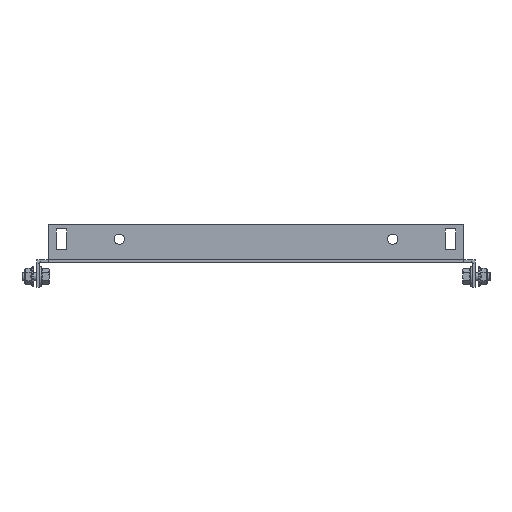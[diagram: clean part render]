
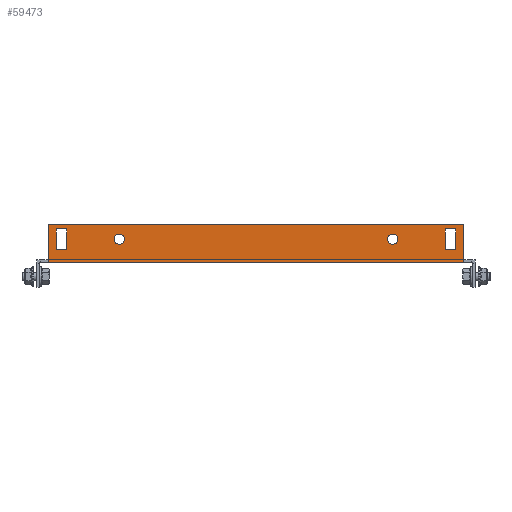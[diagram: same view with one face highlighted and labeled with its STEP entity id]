
A CAD part, front view. The second image highlights one B-rep face of the part: STEP entity #59473.
In plain terms, the highlighted planar face has unit normal (0, -1, 0).
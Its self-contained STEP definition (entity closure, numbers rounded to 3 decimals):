
#54710 = VERTEX_POINT('',#54711);
#54711 = CARTESIAN_POINT('',(142.,-434.5,0.));
#54717 = EDGE_CURVE('',#54718,#54710,#54720,.T.);
#54718 = VERTEX_POINT('',#54719);
#54719 = CARTESIAN_POINT('',(-142.,-434.5,0.));
#54720 = LINE('',#54721,#54722);
#54721 = CARTESIAN_POINT('',(-142.,-434.5,0.));
#54722 = VECTOR('',#54723,1.);
#54723 = DIRECTION('',(1.,-0.,-0.));
#59352 = VERTEX_POINT('',#59353);
#59353 = CARTESIAN_POINT('',(-142.,-434.5,2.6));
#59368 = EDGE_CURVE('',#59352,#54718,#59369,.T.);
#59369 = LINE('',#59370,#59371);
#59370 = CARTESIAN_POINT('',(-142.,-434.5,2.6));
#59371 = VECTOR('',#59372,1.);
#59372 = DIRECTION('',(0.,0.,-1.));
#59392 = VERTEX_POINT('',#59393);
#59393 = CARTESIAN_POINT('',(142.,-434.5,2.6));
#59399 = EDGE_CURVE('',#59392,#54710,#59400,.T.);
#59400 = LINE('',#59401,#59402);
#59401 = CARTESIAN_POINT('',(142.,-434.5,2.));
#59402 = VECTOR('',#59403,1.);
#59403 = DIRECTION('',(-0.,0.,-1.));
#59425 = VERTEX_POINT('',#59426);
#59426 = CARTESIAN_POINT('',(142.,-434.5,26.));
#59432 = EDGE_CURVE('',#59392,#59425,#59433,.T.);
#59433 = LINE('',#59434,#59435);
#59434 = CARTESIAN_POINT('',(142.,-434.5,26.));
#59435 = VECTOR('',#59436,1.);
#59436 = DIRECTION('',(-0.,0.,1.));
#59447 = EDGE_CURVE('',#59448,#59352,#59450,.T.);
#59448 = VERTEX_POINT('',#59449);
#59449 = CARTESIAN_POINT('',(-142.,-434.5,26.));
#59450 = LINE('',#59451,#59452);
#59451 = CARTESIAN_POINT('',(-142.,-434.5,2.));
#59452 = VECTOR('',#59453,1.);
#59453 = DIRECTION('',(-0.,0.,-1.));
#59473 = ADVANCED_FACE('',(#59474,#59508,#59519,#59530,#59564),#59577,
  .F.);
#59474 = FACE_BOUND('',#59475,.T.);
#59475 = EDGE_LOOP('',(#59476,#59486,#59494,#59502));
#59476 = ORIENTED_EDGE('',*,*,#59477,.F.);
#59477 = EDGE_CURVE('',#59478,#59480,#59482,.T.);
#59478 = VERTEX_POINT('',#59479);
#59479 = CARTESIAN_POINT('',(136.5,-434.5,9.));
#59480 = VERTEX_POINT('',#59481);
#59481 = CARTESIAN_POINT('',(136.5,-434.5,23.));
#59482 = LINE('',#59483,#59484);
#59483 = CARTESIAN_POINT('',(136.5,-434.5,23.));
#59484 = VECTOR('',#59485,1.);
#59485 = DIRECTION('',(-0.,-0.,1.));
#59486 = ORIENTED_EDGE('',*,*,#59487,.F.);
#59487 = EDGE_CURVE('',#59488,#59478,#59490,.T.);
#59488 = VERTEX_POINT('',#59489);
#59489 = CARTESIAN_POINT('',(129.5,-434.5,9.));
#59490 = LINE('',#59491,#59492);
#59491 = CARTESIAN_POINT('',(136.5,-434.5,9.));
#59492 = VECTOR('',#59493,1.);
#59493 = DIRECTION('',(1.,-0.,-0.));
#59494 = ORIENTED_EDGE('',*,*,#59495,.F.);
#59495 = EDGE_CURVE('',#59496,#59488,#59498,.T.);
#59496 = VERTEX_POINT('',#59497);
#59497 = CARTESIAN_POINT('',(129.5,-434.5,23.));
#59498 = LINE('',#59499,#59500);
#59499 = CARTESIAN_POINT('',(129.5,-434.5,9.));
#59500 = VECTOR('',#59501,1.);
#59501 = DIRECTION('',(0.,-0.,-1.));
#59502 = ORIENTED_EDGE('',*,*,#59503,.F.);
#59503 = EDGE_CURVE('',#59480,#59496,#59504,.T.);
#59504 = LINE('',#59505,#59506);
#59505 = CARTESIAN_POINT('',(129.5,-434.5,23.));
#59506 = VECTOR('',#59507,1.);
#59507 = DIRECTION('',(-1.,-0.,-0.));
#59508 = FACE_BOUND('',#59509,.T.);
#59509 = EDGE_LOOP('',(#59510));
#59510 = ORIENTED_EDGE('',*,*,#59511,.F.);
#59511 = EDGE_CURVE('',#59512,#59512,#59514,.T.);
#59512 = VERTEX_POINT('',#59513);
#59513 = CARTESIAN_POINT('',(93.5,-434.5,19.5));
#59514 = CIRCLE('',#59515,3.5);
#59515 = AXIS2_PLACEMENT_3D('',#59516,#59517,#59518);
#59516 = CARTESIAN_POINT('',(93.5,-434.5,16.));
#59517 = DIRECTION('',(0.,-1.,0.));
#59518 = DIRECTION('',(0.,0.,1.));
#59519 = FACE_BOUND('',#59520,.T.);
#59520 = EDGE_LOOP('',(#59521));
#59521 = ORIENTED_EDGE('',*,*,#59522,.F.);
#59522 = EDGE_CURVE('',#59523,#59523,#59525,.T.);
#59523 = VERTEX_POINT('',#59524);
#59524 = CARTESIAN_POINT('',(-93.5,-434.5,12.5));
#59525 = CIRCLE('',#59526,3.5);
#59526 = AXIS2_PLACEMENT_3D('',#59527,#59528,#59529);
#59527 = CARTESIAN_POINT('',(-93.5,-434.5,16.));
#59528 = DIRECTION('',(0.,-1.,0.));
#59529 = DIRECTION('',(0.,0.,-1.));
#59530 = FACE_BOUND('',#59531,.T.);
#59531 = EDGE_LOOP('',(#59532,#59542,#59550,#59558));
#59532 = ORIENTED_EDGE('',*,*,#59533,.F.);
#59533 = EDGE_CURVE('',#59534,#59536,#59538,.T.);
#59534 = VERTEX_POINT('',#59535);
#59535 = CARTESIAN_POINT('',(-136.5,-434.5,23.));
#59536 = VERTEX_POINT('',#59537);
#59537 = CARTESIAN_POINT('',(-136.5,-434.5,9.));
#59538 = LINE('',#59539,#59540);
#59539 = CARTESIAN_POINT('',(-136.5,-434.5,9.));
#59540 = VECTOR('',#59541,1.);
#59541 = DIRECTION('',(-0.,-0.,-1.));
#59542 = ORIENTED_EDGE('',*,*,#59543,.F.);
#59543 = EDGE_CURVE('',#59544,#59534,#59546,.T.);
#59544 = VERTEX_POINT('',#59545);
#59545 = CARTESIAN_POINT('',(-129.5,-434.5,23.));
#59546 = LINE('',#59547,#59548);
#59547 = CARTESIAN_POINT('',(-136.5,-434.5,23.));
#59548 = VECTOR('',#59549,1.);
#59549 = DIRECTION('',(-1.,-0.,-0.));
#59550 = ORIENTED_EDGE('',*,*,#59551,.F.);
#59551 = EDGE_CURVE('',#59552,#59544,#59554,.T.);
#59552 = VERTEX_POINT('',#59553);
#59553 = CARTESIAN_POINT('',(-129.5,-434.5,9.));
#59554 = LINE('',#59555,#59556);
#59555 = CARTESIAN_POINT('',(-129.5,-434.5,23.));
#59556 = VECTOR('',#59557,1.);
#59557 = DIRECTION('',(-0.,-0.,1.));
#59558 = ORIENTED_EDGE('',*,*,#59559,.F.);
#59559 = EDGE_CURVE('',#59536,#59552,#59560,.T.);
#59560 = LINE('',#59561,#59562);
#59561 = CARTESIAN_POINT('',(-129.5,-434.5,9.));
#59562 = VECTOR('',#59563,1.);
#59563 = DIRECTION('',(1.,-0.,-0.));
#59564 = FACE_BOUND('',#59565,.T.);
#59565 = EDGE_LOOP('',(#59566,#59567,#59568,#59569,#59570,#59571));
#59566 = ORIENTED_EDGE('',*,*,#59447,.T.);
#59567 = ORIENTED_EDGE('',*,*,#59368,.T.);
#59568 = ORIENTED_EDGE('',*,*,#54717,.T.);
#59569 = ORIENTED_EDGE('',*,*,#59399,.F.);
#59570 = ORIENTED_EDGE('',*,*,#59432,.T.);
#59571 = ORIENTED_EDGE('',*,*,#59572,.T.);
#59572 = EDGE_CURVE('',#59425,#59448,#59573,.T.);
#59573 = LINE('',#59574,#59575);
#59574 = CARTESIAN_POINT('',(-142.,-434.5,26.));
#59575 = VECTOR('',#59576,1.);
#59576 = DIRECTION('',(-1.,-0.,-0.));
#59577 = PLANE('',#59578);
#59578 = AXIS2_PLACEMENT_3D('',#59579,#59580,#59581);
#59579 = CARTESIAN_POINT('',(142.,-434.5,2.));
#59580 = DIRECTION('',(-0.,1.,0.));
#59581 = DIRECTION('',(0.,0.,1.));
